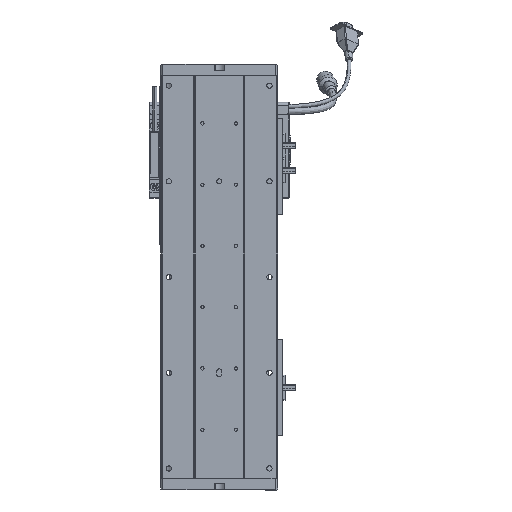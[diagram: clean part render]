
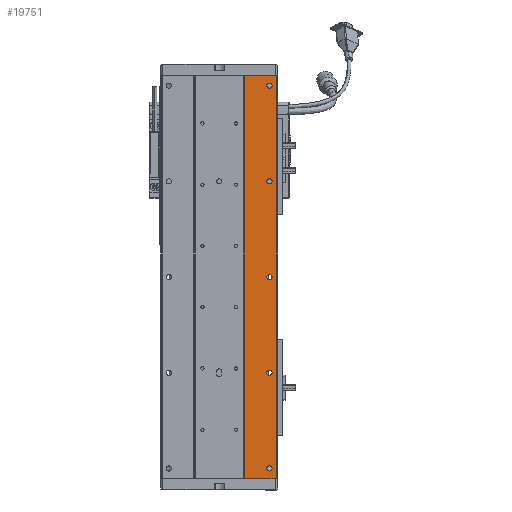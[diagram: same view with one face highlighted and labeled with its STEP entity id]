
A CAD part, front view. The second image highlights one B-rep face of the part: STEP entity #19751.
In plain terms, the highlighted planar face has unit normal (0, -1, 0).
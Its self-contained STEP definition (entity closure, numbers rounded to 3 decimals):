
#74 = EDGE_CURVE ( 'NONE', #47305, #23131, #55931, .T. ) ;
#245 = VERTEX_POINT ( 'NONE', #49317 ) ;
#262 = VERTEX_POINT ( 'NONE', #45845 ) ;
#1087 = DIRECTION ( 'NONE',  ( 0., 1., 0. ) ) ;
#1402 = DIRECTION ( 'NONE',  ( 0., 0., 1. ) ) ;
#2230 = ORIENTED_EDGE ( 'NONE', *, *, #54376, .T. ) ;
#3291 = DIRECTION ( 'NONE',  ( 0., 1., 0. ) ) ;
#4004 = DIRECTION ( 'NONE',  ( 0., 0., 1. ) ) ;
#4496 = CIRCLE ( 'NONE', #28586, 2.75 ) ;
#4607 = EDGE_CURVE ( 'NONE', #29334, #54741, #40590, .T. ) ;
#5221 = EDGE_CURVE ( 'NONE', #16087, #20655, #5628, .T. ) ;
#5628 = CIRCLE ( 'NONE', #57332, 2.75 ) ;
#6243 = DIRECTION ( 'NONE',  ( 0., 0., 1. ) ) ;
#6463 = DIRECTION ( 'NONE',  ( -1., 0., 0. ) ) ;
#6468 = VECTOR ( 'NONE', #6463, 1000. ) ;
#8222 = ORIENTED_EDGE ( 'NONE', *, *, #18896, .T. ) ;
#8442 = VERTEX_POINT ( 'NONE', #28153 ) ;
#10764 = ORIENTED_EDGE ( 'NONE', *, *, #34190, .T. ) ;
#10906 = DIRECTION ( 'NONE',  ( 0., 1., 0. ) ) ;
#11529 = DIRECTION ( 'NONE',  ( 0., 0., 1. ) ) ;
#11964 = CARTESIAN_POINT ( 'NONE',  ( 84.971, 76.768, 0. ) ) ;
#13516 = EDGE_LOOP ( 'NONE', ( #41963, #8222 ) ) ;
#13768 = AXIS2_PLACEMENT_3D ( 'NONE', #49436, #28347, #59410 ) ;
#14122 = VERTEX_POINT ( 'NONE', #14317 ) ;
#14317 = CARTESIAN_POINT ( 'NONE',  ( 214.532, 76.768, 421. ) ) ;
#14389 = CARTESIAN_POINT ( 'NONE',  ( 181.625, 76.768, 0. ) ) ;
#14418 = DIRECTION ( 'NONE',  ( 0., 0., 1. ) ) ;
#14616 = FACE_BOUND ( 'NONE', #56782, .T. ) ;
#14867 = DIRECTION ( 'NONE',  ( 0., 0., -1. ) ) ;
#15998 = DIRECTION ( 'NONE',  ( 0., 0., 1. ) ) ;
#16087 = VERTEX_POINT ( 'NONE', #48167 ) ;
#16237 = DIRECTION ( 'NONE',  ( 0., 0., 1. ) ) ;
#16273 = CIRCLE ( 'NONE', #62824, 2.75 ) ;
#17021 = AXIS2_PLACEMENT_3D ( 'NONE', #41110, #3291, #14418 ) ;
#17067 = FACE_BOUND ( 'NONE', #47477, .T. ) ;
#17590 = DIRECTION ( 'NONE',  ( 0., 0., -1. ) ) ;
#17597 = CARTESIAN_POINT ( 'NONE',  ( 207.625, 76.768, 410.5 ) ) ;
#18001 = VERTEX_POINT ( 'NONE', #36578 ) ;
#18037 = ORIENTED_EDGE ( 'NONE', *, *, #64751, .T. ) ;
#18896 = EDGE_CURVE ( 'NONE', #23131, #47305, #16273, .T. ) ;
#19751 = ADVANCED_FACE ( 'NONE', ( #14616, #66044, #55235, #22091, #17067, #65251 ), #54372, .F. ) ;
#20423 = CARTESIAN_POINT ( 'NONE',  ( 207.625, 76.768, 310.5 ) ) ;
#20590 = LINE ( 'NONE', #64430, #6468 ) ;
#20655 = VERTEX_POINT ( 'NONE', #46455 ) ;
#21791 = DIRECTION ( 'NONE',  ( 0., 1., 0. ) ) ;
#22039 = DIRECTION ( 'NONE',  ( 0., 1., 0. ) ) ;
#22091 = FACE_BOUND ( 'NONE', #68467, .T. ) ;
#22426 = DIRECTION ( 'NONE',  ( 0., 0., 1. ) ) ;
#22438 = EDGE_CURVE ( 'NONE', #245, #59419, #37525, .T. ) ;
#22724 = ORIENTED_EDGE ( 'NONE', *, *, #36234, .F. ) ;
#23131 = VERTEX_POINT ( 'NONE', #32842 ) ;
#24277 = VECTOR ( 'NONE', #14867, 1000. ) ;
#24468 = EDGE_LOOP ( 'NONE', ( #10764, #43546 ) ) ;
#24824 = CIRCLE ( 'NONE', #24885, 2.75 ) ;
#24885 = AXIS2_PLACEMENT_3D ( 'NONE', #60040, #33191, #1402 ) ;
#25321 = CARTESIAN_POINT ( 'NONE',  ( 181.625, 76.768, 421. ) ) ;
#27304 = CARTESIAN_POINT ( 'NONE',  ( 207.625, 76.768, 310.5 ) ) ;
#27552 = CIRCLE ( 'NONE', #41256, 2.75 ) ;
#28153 = CARTESIAN_POINT ( 'NONE',  ( 207.625, 76.768, 13.25 ) ) ;
#28347 = DIRECTION ( 'NONE',  ( 0., 1., 0. ) ) ;
#28511 = CARTESIAN_POINT ( 'NONE',  ( 207.625, 76.768, 107.75 ) ) ;
#28586 = AXIS2_PLACEMENT_3D ( 'NONE', #35788, #62639, #4004 ) ;
#28913 = AXIS2_PLACEMENT_3D ( 'NONE', #17597, #22039, #6243 ) ;
#28916 = EDGE_CURVE ( 'NONE', #18001, #8442, #4496, .T. ) ;
#29334 = VERTEX_POINT ( 'NONE', #28511 ) ;
#29851 = ORIENTED_EDGE ( 'NONE', *, *, #22438, .T. ) ;
#32842 = CARTESIAN_POINT ( 'NONE',  ( 207.625, 76.768, 307.75 ) ) ;
#33156 = CARTESIAN_POINT ( 'NONE',  ( 214.532, 76.768, 421. ) ) ;
#33191 = DIRECTION ( 'NONE',  ( 0., 1., 0. ) ) ;
#34190 = EDGE_CURVE ( 'NONE', #8442, #18001, #62097, .T. ) ;
#35788 = CARTESIAN_POINT ( 'NONE',  ( 207.625, 76.768, 10.5 ) ) ;
#36234 = EDGE_CURVE ( 'NONE', #39917, #59419, #66106, .T. ) ;
#36578 = CARTESIAN_POINT ( 'NONE',  ( 207.625, 76.768, 7.75 ) ) ;
#37230 = EDGE_CURVE ( 'NONE', #14122, #39917, #47769, .T. ) ;
#37525 = LINE ( 'NONE', #25321, #24277 ) ;
#37784 = CARTESIAN_POINT ( 'NONE',  ( 207.625, 76.768, 210.5 ) ) ;
#39917 = VERTEX_POINT ( 'NONE', #56761 ) ;
#40590 = CIRCLE ( 'NONE', #13768, 2.75 ) ;
#40714 = CIRCLE ( 'NONE', #28913, 2.75 ) ;
#41110 = CARTESIAN_POINT ( 'NONE',  ( 207.625, 76.768, 110.5 ) ) ;
#41256 = AXIS2_PLACEMENT_3D ( 'NONE', #37784, #21791, #48432 ) ;
#41291 = CIRCLE ( 'NONE', #17021, 2.75 ) ;
#41963 = ORIENTED_EDGE ( 'NONE', *, *, #74, .T. ) ;
#42024 = EDGE_LOOP ( 'NONE', ( #29851, #22724, #63309, #66968 ) ) ;
#42208 = CARTESIAN_POINT ( 'NONE',  ( 207.625, 76.768, 313.25 ) ) ;
#42485 = DIRECTION ( 'NONE',  ( 0., 1., 0. ) ) ;
#42712 = CARTESIAN_POINT ( 'NONE',  ( 207.625, 76.768, 210.5 ) ) ;
#43546 = ORIENTED_EDGE ( 'NONE', *, *, #28916, .T. ) ;
#44221 = EDGE_CURVE ( 'NONE', #14122, #245, #20590, .T. ) ;
#45555 = CARTESIAN_POINT ( 'NONE',  ( 0., 76.768, 0. ) ) ;
#45845 = CARTESIAN_POINT ( 'NONE',  ( 207.625, 76.768, 407.75 ) ) ;
#45903 = VERTEX_POINT ( 'NONE', #47901 ) ;
#46455 = CARTESIAN_POINT ( 'NONE',  ( 207.625, 76.768, 213.25 ) ) ;
#47305 = VERTEX_POINT ( 'NONE', #42208 ) ;
#47477 = EDGE_LOOP ( 'NONE', ( #48688, #59499 ) ) ;
#47769 = LINE ( 'NONE', #33156, #55167 ) ;
#47901 = CARTESIAN_POINT ( 'NONE',  ( 207.625, 76.768, 413.25 ) ) ;
#48167 = CARTESIAN_POINT ( 'NONE',  ( 207.625, 76.768, 207.75 ) ) ;
#48269 = EDGE_CURVE ( 'NONE', #54741, #29334, #41291, .T. ) ;
#48429 = ORIENTED_EDGE ( 'NONE', *, *, #4607, .T. ) ;
#48432 = DIRECTION ( 'NONE',  ( 0., 0., 1. ) ) ;
#48688 = ORIENTED_EDGE ( 'NONE', *, *, #51758, .T. ) ;
#48716 = AXIS2_PLACEMENT_3D ( 'NONE', #27304, #64392, #11529 ) ;
#49317 = CARTESIAN_POINT ( 'NONE',  ( 181.625, 76.768, 421. ) ) ;
#49436 = CARTESIAN_POINT ( 'NONE',  ( 207.625, 76.768, 110.5 ) ) ;
#51758 = EDGE_CURVE ( 'NONE', #20655, #16087, #27552, .T. ) ;
#54372 = PLANE ( 'NONE',  #56196 ) ;
#54376 = EDGE_CURVE ( 'NONE', #262, #45903, #40714, .T. ) ;
#54741 = VERTEX_POINT ( 'NONE', #68805 ) ;
#55167 = VECTOR ( 'NONE', #17590, 1000. ) ;
#55235 = FACE_BOUND ( 'NONE', #24468, .T. ) ;
#55911 = AXIS2_PLACEMENT_3D ( 'NONE', #58639, #42485, #15998 ) ;
#55931 = CIRCLE ( 'NONE', #48716, 2.75 ) ;
#56196 = AXIS2_PLACEMENT_3D ( 'NONE', #11964, #1087, #22426 ) ;
#56761 = CARTESIAN_POINT ( 'NONE',  ( 214.532, 76.768, 0. ) ) ;
#56782 = EDGE_LOOP ( 'NONE', ( #18037, #2230 ) ) ;
#57332 = AXIS2_PLACEMENT_3D ( 'NONE', #42712, #10906, #16237 ) ;
#58639 = CARTESIAN_POINT ( 'NONE',  ( 207.625, 76.768, 10.5 ) ) ;
#59281 = ORIENTED_EDGE ( 'NONE', *, *, #48269, .T. ) ;
#59410 = DIRECTION ( 'NONE',  ( 0., 0., 1. ) ) ;
#59419 = VERTEX_POINT ( 'NONE', #14389 ) ;
#59499 = ORIENTED_EDGE ( 'NONE', *, *, #5221, .T. ) ;
#60040 = CARTESIAN_POINT ( 'NONE',  ( 207.625, 76.768, 410.5 ) ) ;
#61977 = DIRECTION ( 'NONE',  ( -1., 0., 0. ) ) ;
#61983 = VECTOR ( 'NONE', #61977, 1000. ) ;
#62097 = CIRCLE ( 'NONE', #55911, 2.75 ) ;
#62639 = DIRECTION ( 'NONE',  ( 0., 1., 0. ) ) ;
#62824 = AXIS2_PLACEMENT_3D ( 'NONE', #20423, #68196, #67498 ) ;
#63309 = ORIENTED_EDGE ( 'NONE', *, *, #37230, .F. ) ;
#64392 = DIRECTION ( 'NONE',  ( 0., 1., 0. ) ) ;
#64430 = CARTESIAN_POINT ( 'NONE',  ( 84.971, 76.768, 421. ) ) ;
#64751 = EDGE_CURVE ( 'NONE', #45903, #262, #24824, .T. ) ;
#65251 = FACE_OUTER_BOUND ( 'NONE', #42024, .T. ) ;
#66044 = FACE_BOUND ( 'NONE', #13516, .T. ) ;
#66106 = LINE ( 'NONE', #45555, #61983 ) ;
#66968 = ORIENTED_EDGE ( 'NONE', *, *, #44221, .T. ) ;
#67498 = DIRECTION ( 'NONE',  ( 0., 0., 1. ) ) ;
#68196 = DIRECTION ( 'NONE',  ( 0., 1., 0. ) ) ;
#68467 = EDGE_LOOP ( 'NONE', ( #59281, #48429 ) ) ;
#68805 = CARTESIAN_POINT ( 'NONE',  ( 207.625, 76.768, 113.25 ) ) ;
